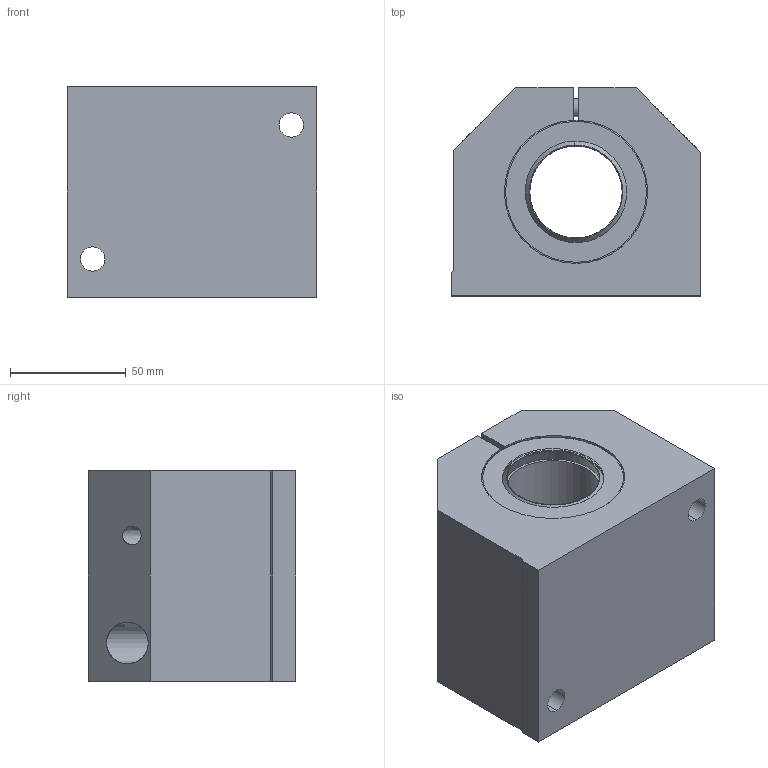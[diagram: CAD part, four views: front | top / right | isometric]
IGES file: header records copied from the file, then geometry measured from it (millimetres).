
Start section: 3D InterOp IGES (Version 21 0 1), Spatial Corp. Copyright (c) 1999-2007.
Global section: file name: SLS-40.igs; native system: Spatial Corp.; preprocessor: 3D InterOp GENERIC/IGES 3.0; author: Noname; organization: Noname; date: 20220309.161031; units: millimetre
Bounding box: 108 x 90 x 91 mm (x, y, z)
Surface area: 78674.4 mm2 (no closed solid volume)
Topology: 0 solids, 0 shells, 136 faces, 658 edges, 652 vertices
Faces by surface type: revolution 95, extrusion 41
